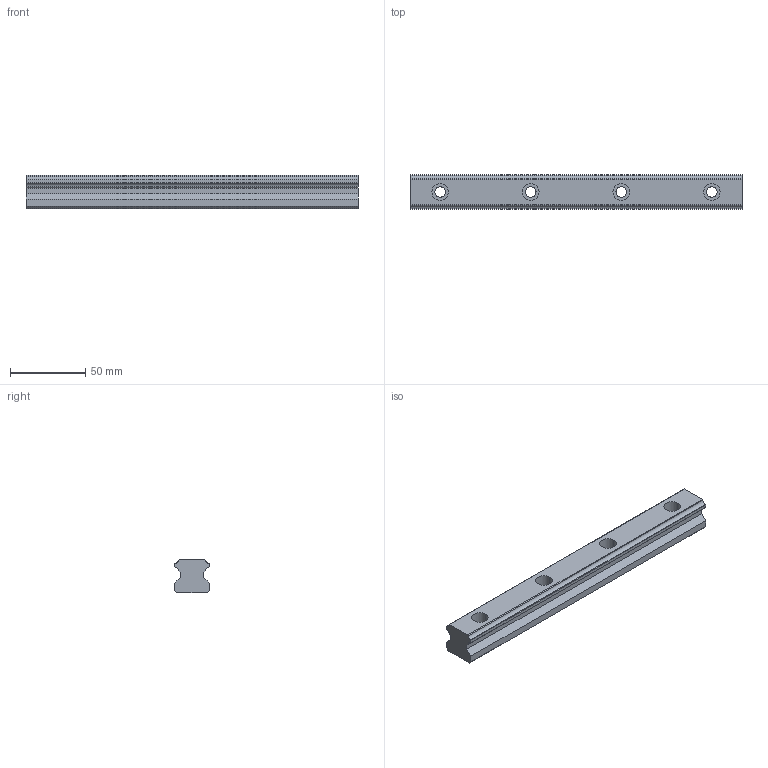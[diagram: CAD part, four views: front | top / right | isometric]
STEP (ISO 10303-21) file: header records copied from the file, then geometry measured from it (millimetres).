
FILE_DESCRIPTION(('starvars output'),'2;1');
FILE_NAME('cv20190626220123000039604.stp','22:01:23 2019/06/26',( 'Thomas Industrial Network Germany GmbH'),( 'Thomas Industrial Network Germany GmbH'),'unknown preprocess','ACIS' ,'unknown authorization');
FILE_SCHEMA(('CONFIG_CONTROL_DESIGN {UNKNOWN IMPLEMENTATION LEVEL}'));
Length unit declared in the file: millimetre
Products named in the file (1): PRODUCT_ID_1
Bounding box: 220 x 23 x 22 mm (x, y, z)
Volume: 90350.7 mm3; surface area: 23240.6 mm2
Topology: 1 solids, 1 shells, 46 faces, 120 edges, 80 vertices
Faces by surface type: plane 26, cylinder 20
Entity records: 1405 total; most frequent: ORIENTED_EDGE 240, CARTESIAN_POINT 222, DIRECTION 204, EDGE_CURVE 120, VERTEX_POINT 80, VECTOR 80, LINE 80, AXIS2_PLACEMENT_3D 62
